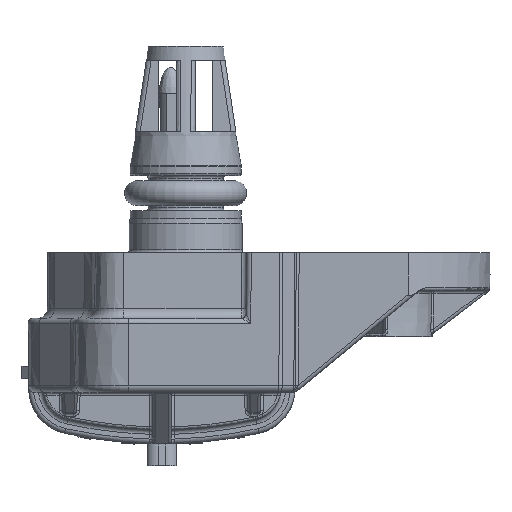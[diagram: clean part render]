
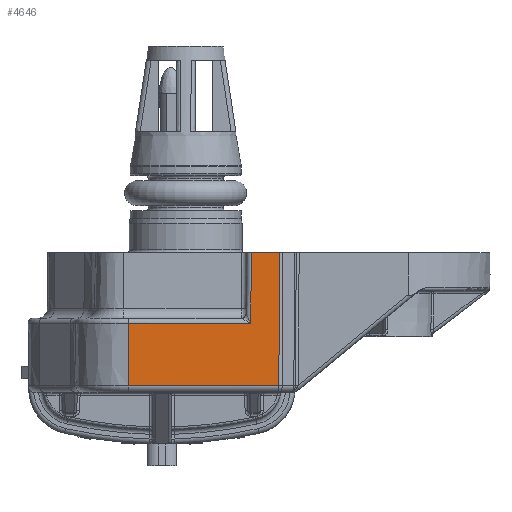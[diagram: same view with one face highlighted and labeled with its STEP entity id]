
A CAD part, front view. The second image highlights one B-rep face of the part: STEP entity #4646.
In plain terms, the highlighted planar face has unit normal (0, -1, -0.009).
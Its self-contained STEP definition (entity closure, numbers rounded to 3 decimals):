
#2055=FACE_OUTER_BOUND('',#13954,.T.);
#4646=ADVANCED_FACE('',(#2055),#6808,.T.);
#6808=PLANE('',#37322);
#9281=LINE('',#53634,#11493);
#9328=LINE('',#54010,#11540);
#9329=LINE('',#54014,#11541);
#9330=LINE('',#54016,#11542);
#9331=LINE('',#54017,#11543);
#9332=LINE('',#54019,#11544);
#11493=VECTOR('',#41198,1.);
#11540=VECTOR('',#41331,1.);
#11541=VECTOR('',#41336,1.);
#11542=VECTOR('',#41337,1.);
#11543=VECTOR('',#41338,1.);
#11544=VECTOR('',#41339,1.);
#13954=EDGE_LOOP('',(#17412,#17413,#17414,#17415,#17416,#17417));
#17412=ORIENTED_EDGE('',*,*,#31193,.F.);
#17413=ORIENTED_EDGE('',*,*,#31195,.T.);
#17414=ORIENTED_EDGE('',*,*,#31196,.T.);
#17415=ORIENTED_EDGE('',*,*,#31094,.F.);
#17416=ORIENTED_EDGE('',*,*,#31197,.T.);
#17417=ORIENTED_EDGE('',*,*,#31198,.T.);
#27781=VERTEX_POINT('',#53633);
#27782=VERTEX_POINT('',#53635);
#27868=VERTEX_POINT('',#54009);
#27869=VERTEX_POINT('',#54011);
#27870=VERTEX_POINT('',#54015);
#27871=VERTEX_POINT('',#54018);
#31094=EDGE_CURVE('',#27781,#27782,#9281,.T.);
#31193=EDGE_CURVE('',#27868,#27869,#9328,.T.);
#31195=EDGE_CURVE('',#27868,#27870,#9329,.T.);
#31196=EDGE_CURVE('',#27870,#27782,#9330,.T.);
#31197=EDGE_CURVE('',#27781,#27871,#9331,.T.);
#31198=EDGE_CURVE('',#27871,#27869,#9332,.T.);
#37322=AXIS2_PLACEMENT_3D('',#54020,#41340,#41341);
#41198=DIRECTION('',(1.,0.,0.));
#41331=DIRECTION('',(0.,-0.009,1.));
#41336=DIRECTION('',(1.,0.,0.));
#41337=DIRECTION('',(0.004,-0.009,1.));
#41338=DIRECTION('',(-0.009,0.009,-1.));
#41339=DIRECTION('',(-1.,0.,0.));
#41340=DIRECTION('',(0.,-1.,-0.009));
#41341=DIRECTION('',(0.,-0.009,1.));
#53633=CARTESIAN_POINT('',(6.9,-13.628,0.));
#53634=CARTESIAN_POINT('',(-11.,-13.628,0.));
#53635=CARTESIAN_POINT('',(9.846,-13.628,0.));
#54009=CARTESIAN_POINT('',(-6.,-13.506,-14.006));
#54010=CARTESIAN_POINT('',(-6.,-13.5,-14.7));
#54011=CARTESIAN_POINT('',(-6.,-13.564,-7.404));
#54014=CARTESIAN_POINT('',(9.793,-13.506,-14.006));
#54015=CARTESIAN_POINT('',(9.795,-13.506,-14.006));
#54016=CARTESIAN_POINT('',(9.793,-13.5,-14.72));
#54017=CARTESIAN_POINT('',(6.772,-13.5,-14.721));
#54018=CARTESIAN_POINT('',(6.835,-13.564,-7.404));
#54019=CARTESIAN_POINT('',(4.325,-13.564,-7.404));
#54020=CARTESIAN_POINT('',(4.325,-13.5,-14.7));
